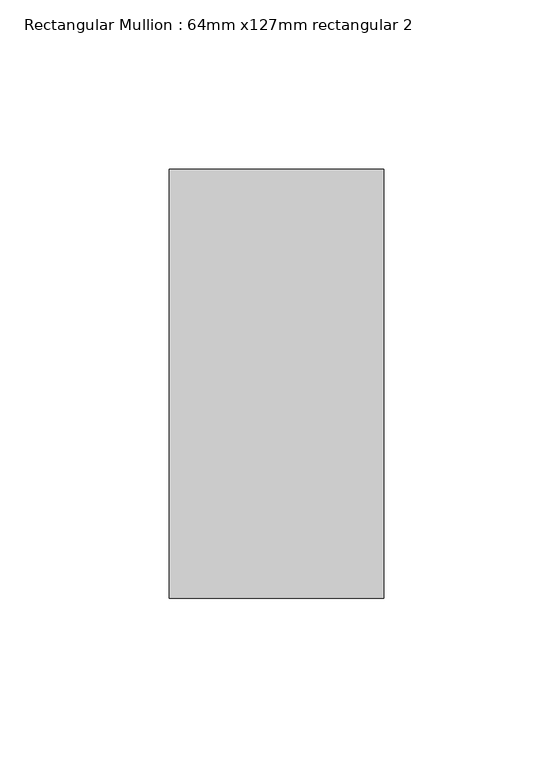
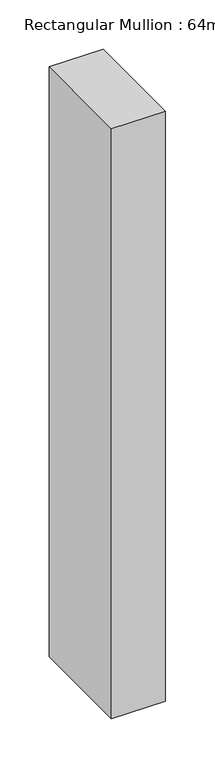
"""IFC4 building model written with IfcOpenShell, lengths in millimetres: member geometry, Rectangular Mullion : 64mm x127mm rectangular 2."""

from ifc_helpers import new_model, si_unit, frame, origin, place, context, project, spatial, polyline, outline, extrude, source, transform, mapped, element, save


def rectangular_mullion_64mm_x127mm_rectangular_2_7f28f393(model_context):
    return source(origin(), model_context, "Body", "SweptSolid", [
        extrude(outline(polyline([(31.75, 63.5), (31.75, -63.5), (-31.75, -63.5), (-31.75, 63.5), (31.75, 63.5)])), frame((0.0, 0.0, -733.425), z_axis=(0.0, 0.0, 1.0), x_axis=(1.0, 0.0, 0.0)), (0.0, 0.0, 1.0), 733.425),
    ])


if __name__ == "__main__":
    model = new_model("IFC4")
    model_context = context("Model", 3, world=origin())
    ifc_project = project(units=[si_unit("LENGTHUNIT", "METRE", prefix="MILLI")], contexts=[model_context])
    site = spatial("IfcSite", under=ifc_project)
    building = spatial("IfcBuilding", under=site)
    placement = place(None, origin())
    rectangular_mullion_64mm_x127mm_rectangular_2_shape = rectangular_mullion_64mm_x127mm_rectangular_2_7f28f393(model_context)
    element("IfcMember", 1, ObjectType="Rectangular Mullion : 64mm x127mm rectangular 2", at=placement, inside=building, context=model_context, shape_type="MappedRepresentation", body=[
        mapped(rectangular_mullion_64mm_x127mm_rectangular_2_shape, transform((0.0, 0.0, 0.0), x_axis=(1.0, 0.0, 0.0), y_axis=(0.0, 1.0, 0.0), z_axis=(0.0, 0.0, 1.0))),
    ])
    save(model, "model.ifc")
